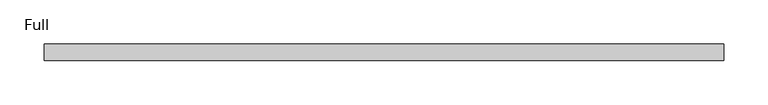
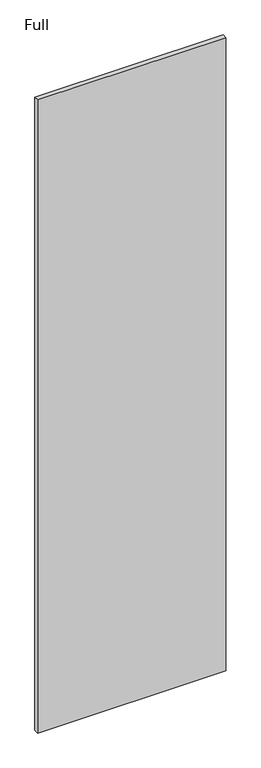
"""IFC4 building model written with IfcOpenShell, lengths in millimetres: proxy geometry, Panel-Fascia-Teknion-Altos-Standard : Full."""

from ifc_helpers import new_model, si_unit, frame, origin, place, context, project, spatial, polyline, outline, extrude, source, transform, mapped, element, save


def full_eef0ab5c(model_context):
    return source(origin(), model_context, "Body", "SweptSolid", [
        extrude(outline(polyline([(385.4152344, -9.525), (-385.4152344, -9.525), (-385.4152344, 9.525), (385.4152344, 9.525), (385.4152344, -9.525)])), frame((0.0, 0.0, 3.175), z_axis=(0.0, 0.0, 1.0), x_axis=(1.0, 0.0, 0.0)), (0.0, 0.0, 1.0), 2739.136),
    ])


if __name__ == "__main__":
    model = new_model("IFC4")
    model_context = context("Model", 3, world=origin())
    ifc_project = project(units=[si_unit("LENGTHUNIT", "METRE", prefix="MILLI")], contexts=[model_context])
    site = spatial("IfcSite", under=ifc_project)
    building = spatial("IfcBuilding", under=site)
    placement = place(None, origin())
    full_shape = full_eef0ab5c(model_context)
    element("IfcBuildingElementProxy", 1, Name="Panel-Fascia-Teknion-Altos-Standard : Full", ObjectType="Panel-Fascia-Teknion-Altos-Standard : Full", at=placement, inside=building, context=model_context, shape_type="MappedRepresentation", body=[
        mapped(full_shape, transform((0.0, 0.0, 0.0), x_axis=(1.0, 0.0, 0.0), y_axis=(0.0, 1.0, 0.0), z_axis=(0.0, 0.0, 1.0))),
    ])
    save(model, "model.ifc")
